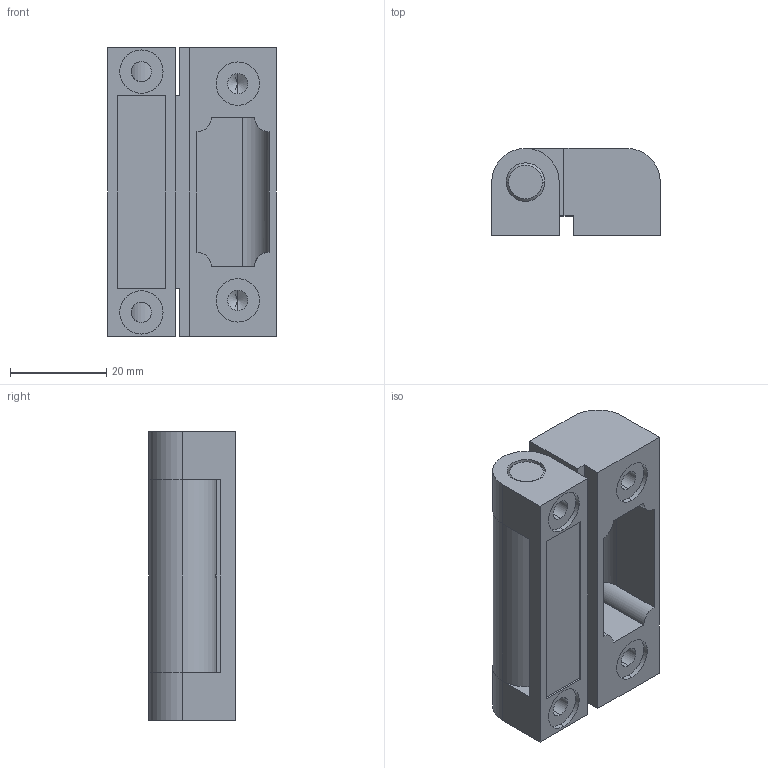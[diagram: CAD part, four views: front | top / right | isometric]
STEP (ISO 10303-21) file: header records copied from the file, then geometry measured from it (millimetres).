
FILE_DESCRIPTION (( 'STEP AP214' ), '1' );
FILE_NAME ('SK2-024.STEP', '2020-04-15T06:17:07', ( 'admin' ), ( 'Microsoft' ), 'SwSTEP 2.0', 'SolidWorks 2018', '' );
FILE_SCHEMA (( 'AUTOMOTIVE_DESIGN' ));
Length unit declared in the file: millimetre
Products named in the file (5): 2-024-F1; SK2-024; hex socket set screws with flat point gb_GB_FASTENER_SCREWS_HSFP M3X4-C; 2-024-F3; 2-024-F2
Assembly tree (4 placements, depth 2):
  SK2-024
    2-024-F1
    2-024-F2
    2-024-F3
    hex socket set screws with flat point gb_GB_FASTENER_SCREWS_HSFP M3X4-C
Bounding box: 35 x 18 x 60 mm (x, y, z)
Volume: 26195.8 mm3; surface area: 14629 mm2
Topology: 4 solids, 4 shells, 107 faces, 256 edges, 161 vertices
Faces by surface type: plane 51, cylinder 42, cone 14
Entity records: 3620 total; most frequent: CARTESIAN_POINT 750, DIRECTION 560, ORIENTED_EDGE 500, EDGE_CURVE 250, AXIS2_PLACEMENT_3D 205, VERTEX_POINT 161, LINE 150, VECTOR 150
